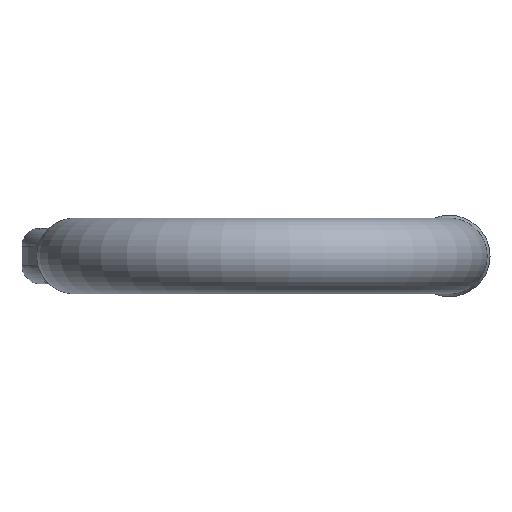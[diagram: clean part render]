
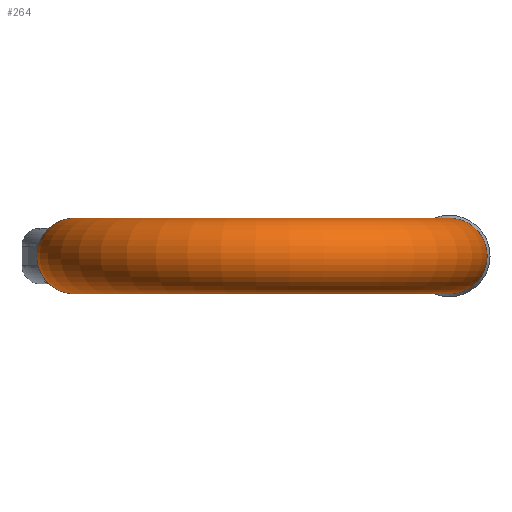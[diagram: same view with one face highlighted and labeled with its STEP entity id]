
A CAD part, front view. The second image highlights one B-rep face of the part: STEP entity #264.
In plain terms, the highlighted toroidal (fillet/blend) face has major radius 47 mm and minor radius 9.5 mm.
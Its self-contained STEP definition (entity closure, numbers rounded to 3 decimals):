
#229=TOROIDAL_SURFACE('',#2738,47.,9.5);
#264=ADVANCED_FACE('',(#851,#852),#229,.T.);
#485=CIRCLE('',#2719,9.5);
#487=CIRCLE('',#2731,9.5);
#851=FACE_BOUND('',#887,.T.);
#852=FACE_BOUND('',#888,.T.);
#887=EDGE_LOOP('',(#1176));
#888=EDGE_LOOP('',(#1177));
#1176=ORIENTED_EDGE('',*,*,#2160,.T.);
#1177=ORIENTED_EDGE('',*,*,#2194,.F.);
#1900=VERTEX_POINT('',#3761);
#1930=VERTEX_POINT('',#3991);
#2160=EDGE_CURVE('',#1900,#1900,#485,.T.);
#2194=EDGE_CURVE('',#1930,#1930,#487,.T.);
#2719=AXIS2_PLACEMENT_3D('',#3760,#2873,#2874);
#2731=AXIS2_PLACEMENT_3D('',#3990,#2901,#2902);
#2738=AXIS2_PLACEMENT_3D('',#4001,#2915,#2916);
#2873=DIRECTION('',(0.,-1.,0.));
#2874=DIRECTION('',(1.,0.,0.));
#2901=DIRECTION('',(0.,1.,0.));
#2902=DIRECTION('',(-1.,0.,0.));
#2915=DIRECTION('',(0.,0.,1.));
#2916=DIRECTION('',(1.,0.,0.));
#3760=CARTESIAN_POINT('',(-47.,-30.,0.));
#3761=CARTESIAN_POINT('',(-37.5,-30.,0.));
#3990=CARTESIAN_POINT('',(47.,-30.,0.));
#3991=CARTESIAN_POINT('',(37.5,-30.,0.));
#4001=CARTESIAN_POINT('',(0.,-30.,0.));
